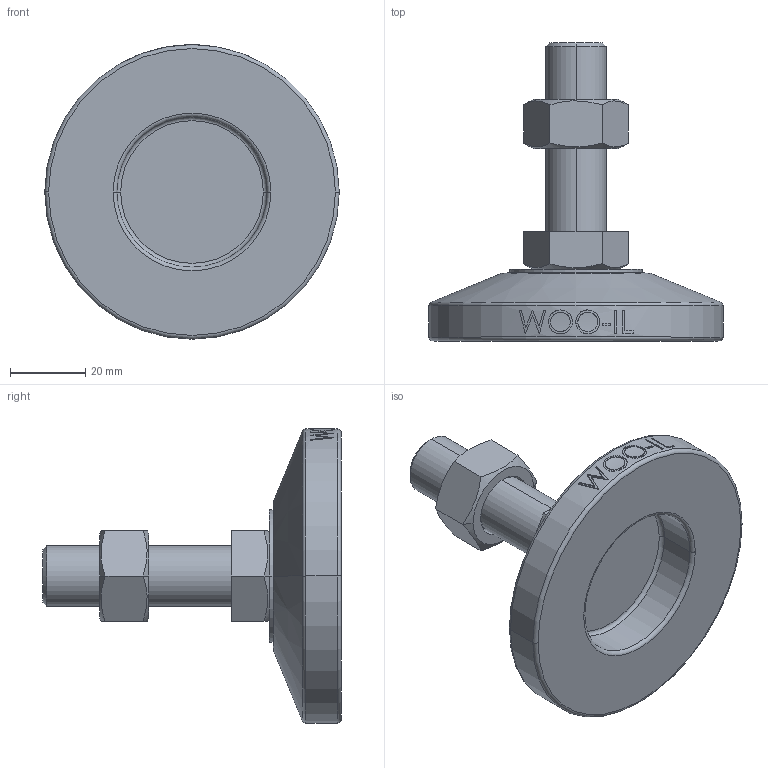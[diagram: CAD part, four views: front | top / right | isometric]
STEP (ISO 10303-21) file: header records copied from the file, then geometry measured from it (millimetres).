
FILE_DESCRIPTION (( 'STEP AP214' ), '1' );
FILE_NAME ('MFT78-M16-50.step', '2021-03-29T04:44:03', ( '' ), ( '' ), 'SwSTEP 2.0', 'SolidWorks 2019', '' );
FILE_SCHEMA (( 'AUTOMOTIVE_DESIGN' ));
Length unit declared in the file: millimetre
Products named in the file (2): MFT78-M16-50
Bounding box: 78 x 79 x 78 mm (x, y, z)
Volume: 75408.7 mm3; surface area: 20093.7 mm2
Topology: 3 solids, 3 shells, 106 faces, 243 edges, 154 vertices
Faces by surface type: plane 48, cylinder 18, bspline 16, cone 14, torus 10
Entity records: 4506 total; most frequent: CARTESIAN_POINT 2163, ORIENTED_EDGE 486, DIRECTION 439, EDGE_CURVE 243, AXIS2_PLACEMENT_3D 170, VERTEX_POINT 154, EDGE_LOOP 119, ADVANCED_FACE 106
